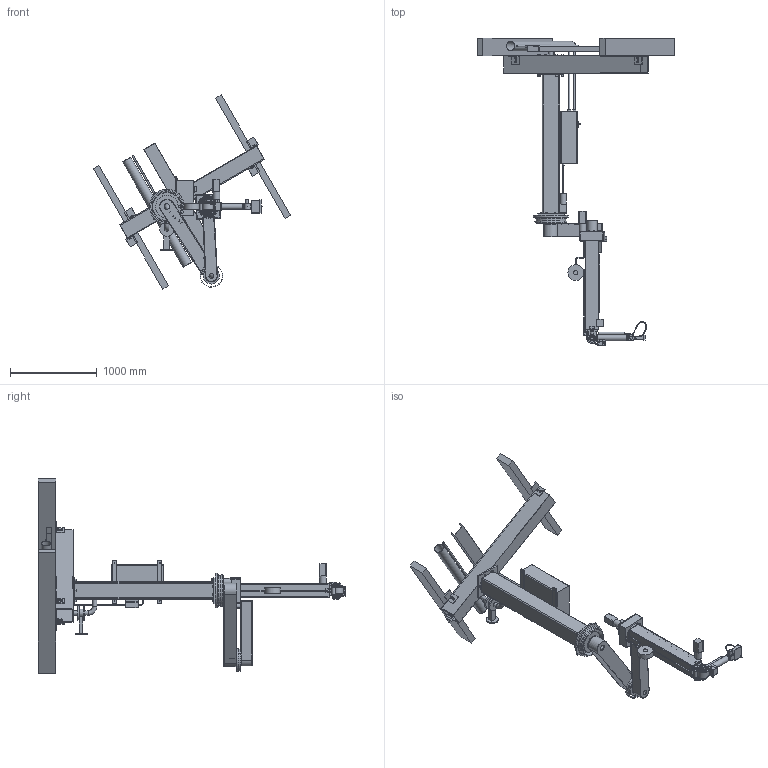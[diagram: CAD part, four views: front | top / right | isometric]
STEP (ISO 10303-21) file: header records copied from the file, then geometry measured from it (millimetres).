
FILE_DESCRIPTION(('Open CASCADE Model'),'2;1');
FILE_NAME('Open CASCADE Shape Model','2026-11-19T21:17:18',('Author'),( 'Open CASCADE'),'Open CASCADE STEP processor 7.9','Open CASCADE 7.9' ,'Unknown');
FILE_SCHEMA(('AUTOMOTIVE_DESIGN { 1 0 10303 214 1 1 1 1 }'));
Length unit declared in the file: millimetre
Products named in the file (165): clean_arm; Base; CLN-HDR#1; CLN-PUR#1; CLN-CLP#1; ISO4017-M12x40-8.8#1; ISO7089-12-fast_zn#1; ISO7040-M12-8#1; CLN-COL#1; ISO4017-M16x70-8.8#1; ISO7089-16-fast_zn#1; ISO7040-M16-8#1; CLN-BAS#1; ISO4762-M12x40-10.9#1; CLN-RNG1#1; CLN-BND#1; XRB-100x160x16#1; CLN-PIN1#1; CLN-SGM1#1; CLN-SWV1#1; CLN-VRS#1; CLN-VGV#1; CLN-VBR#1; CLN-VMN#1; CLN-AMN#1; CLN-ADR#1; CLN-AFR#1; CLN-AFB#1; ISO7380-M6x12-A2-70#1; CLN-AIL#1; CLN-ENC#1; CLN-ENR#1; ISO4017-M8x16-A4-70#1; CLN-ISO#1; CLN-CTY#1; CLN-ECDP#1; CLN-ECDN#1; CLN-EMC#1; CLN-ESC#1; CA_J1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
Assembly tree (319 placements, depth 13):
  clean_arm
    Base
      CLN-HDR#1
      CLN-PUR#1  x2
      CLN-CLP#1  x4
      ISO4017-M12x40-8.8#1  x8
      ISO7089-12-fast_zn#1  x16
      ISO7040-M12-8#1  x8
      CLN-COL#1
      ISO4017-M16x70-8.8#1  x4
      ISO7089-16-fast_zn#1  x4
      ISO7040-M16-8#1  x4
      CLN-BAS#1
      ISO4762-M12x40-10.9#1  x8
      CLN-RNG1#1
      CLN-BND#1
      XRB-100x160x16#1
      CLN-PIN1#1
      CLN-SGM1#1
      CLN-SWV1#1
      CLN-VRS#1
      CLN-VGV#1
      CLN-VBR#1
      CLN-VMN#1
      CLN-AMN#1
      CLN-ADR#1
      CLN-AFR#1
      CLN-AFB#1
      ISO7380-M6x12-A2-70#1  x2
      CLN-AIL#1
      CLN-ENC#1
      CLN-ENR#1  x2
      ISO4017-M8x16-A4-70#1  x4
      CLN-ISO#1
      CLN-CTY#1
      CLN-ECDP#1
      CLN-ECDN#1
      CLN-EMC#1
      CLN-ESC#1
      CA_J1
        CLN-J1H#1
        ISO4762-M8x20-12.9#1  x6
        CLN-RCK1#1
        CLN-L1#1
        CLN-L1C#1
        ISO7380-M5x10-A2-70#1  x12
        CLN-L1D#1
        CLN-SOC#1
        CLN-SCN#1  x2
        CLN-SPF#1  x2
        CLN-J2C#1
        XRB-100x150x13#1
        CLN-PIN2#1
        CLN-SGM2#1
        CLN-SWV2#1
        CLN-AC1#1
        CLN-AT1#1
        CA_J2
          CLN-J2H#1
          ISO4762-M6x16-12.9#1  x6
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Bounding box: 2273.89 x 3543.5 x 2236.59 mm (x, y, z)
Volume: 162667114.5 mm3; surface area: 21276034.2 mm2
Topology: 440 solids, 440 shells, 4155 faces, 8473 edges, 5488 vertices
Faces by surface type: plane 2881, cylinder 834, cone 264, torus 122, sphere 50, bspline 4
Full cylindrical faces by diameter (mm): 3 x3, 4 x31, 5 x46, 5.5 x7, 6 x38, 6.1 x4, 6.5 x4, 7 x20, 8 x16, 8.06 x38, 8.5 x14, 8.96 x1, 9 x5, 9.92 x32, 10 x35, 10.08 x8, 10.2 x8, 11 x4, 11.2 x1, 12 x24, 13 x22, 13.44 x4, 13.5 x16, 13.679 x2, 14 x10, 14.88 x35, 15 x2, 15.3 x2, 16 x11, 16.4 x1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
Entity records: 143869 total; most frequent: CARTESIAN_POINT 34996, DIRECTION 20288, LINE 11081, VECTOR 11081, ORIENTED_EDGE 9758, PCURVE 9758, DEFINITIONAL_REPRESENTATION 9758, EDGE_CURVE 4879
